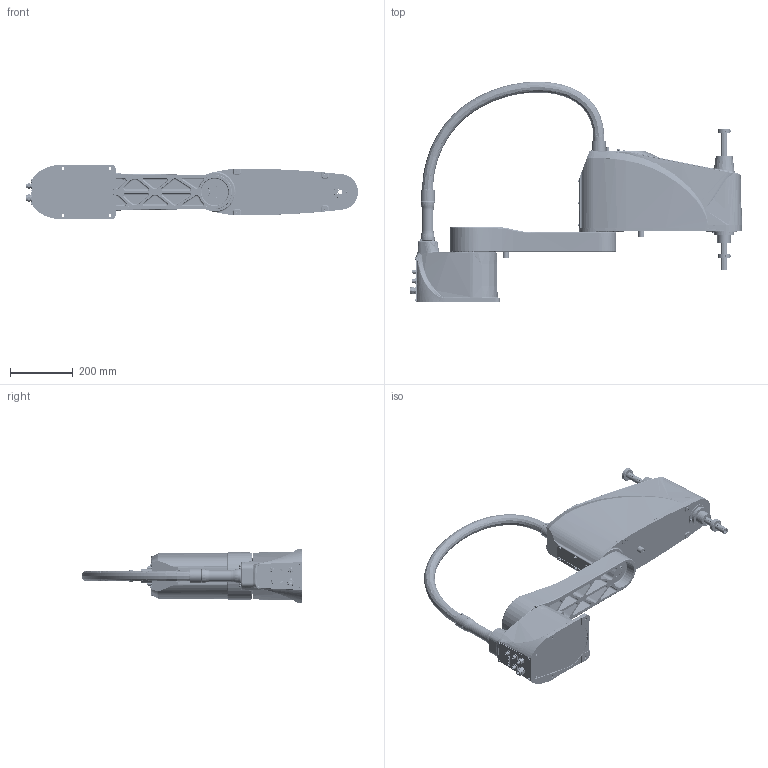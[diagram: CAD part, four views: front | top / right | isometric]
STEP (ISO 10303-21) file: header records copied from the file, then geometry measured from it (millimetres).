
FILE_DESCRIPTION (( 'STEP AP214' ), '1' );
FILE_NAME ('ÍØÐÇ³½TR005-HP800.STEP', '2020-12-02T07:17:29', ( '' ), ( '' ), 'SwSTEP 2.0', 'SolidWorks 2016', '' );
FILE_SCHEMA (( 'AUTOMOTIVE_DESIGN' ));
Length unit declared in the file: millimetre
Products named in the file (1): 阹陎魚TR005-HP800
Bounding box: 1059.35 x 704.19 x 174 mm (x, y, z)
Volume: 6328281.9 mm3; surface area: 2213924.2 mm2
Topology: 101 solids, 101 shells, 6295 faces, 15567 edges, 9586 vertices
Faces by surface type: cylinder 2199, cone 1918, plane 1614, bspline 366, torus 179, sphere 19
Entity records: 229188 total; most frequent: CARTESIAN_POINT 78137, DIRECTION 33125, ORIENTED_EDGE 30462, EDGE_CURVE 15231, AXIS2_PLACEMENT_3D 13264, VERTEX_POINT 9550, CIRCLE 7334, EDGE_LOOP 7133
